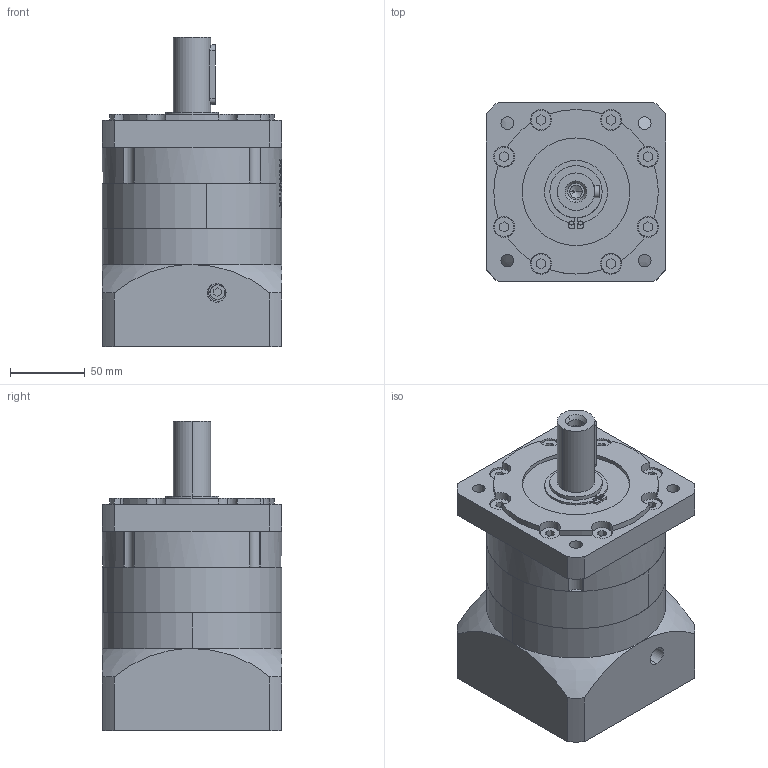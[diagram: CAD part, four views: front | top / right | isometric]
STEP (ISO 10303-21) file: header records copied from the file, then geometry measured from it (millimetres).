
FILE_DESCRIPTION (( 'STEP AP203' ), '1' );
FILE_NAME ('PLF120-L1-22-110-145.STEP', '2022-06-22T09:14:09', ( 'Windows User' ), ( 'P R C' ), 'SwSTEP 2.0', 'SolidWorks 2016', '' );
FILE_SCHEMA (( 'CONFIG_CONTROL_DESIGN' ));
Length unit declared in the file: millimetre
Products named in the file (8): PLF120 狟屳唳; 粣創-6007 40x68x15; 邧埴瑩 8x7x40; PLF120-L1-22-110-145; 囀鞠褒蹟佪 M6x20; PLF120 蟀諉啣-LR62.5; PLF120 κｳﾝﾈｦ-ﾓﾅｻｯ_ﾒｻｼｶﾄﾚｳﾝﾈｦ; PLF120 奻屳唳
Assembly tree (7 placements, depth 2):
  PLF120-L1-22-110-145
    囀鞠褒蹟佪 M6x20
    PLF120 蟀諉啣-LR62.5
    PLF120 κｳﾝﾈｦ-ﾓﾅｻｯ_ﾒｻｼｶﾄﾚｳﾝﾈｦ
    PLF120 奻屳唳
    PLF120 狟屳唳
    粣創-6007 40x68x15
    邧埴瑩 8x7x40
Bounding box: 120 x 120 x 207 mm (x, y, z)
Volume: 1718075.4 mm3; surface area: 243534.1 mm2
Topology: 7 solids, 15 shells, 1138 faces, 3083 edges, 2041 vertices
Faces by surface type: plane 635, cylinder 221, bspline 122, sphere 94, torus 52, cone 14
Entity records: 45763 total; most frequent: CARTESIAN_POINT 17017, ORIENTED_EDGE 6134, DIRECTION 5336, EDGE_CURVE 3067, VERTEX_POINT 2037, AXIS2_PLACEMENT_3D 1890, LINE 1556, VECTOR 1556
